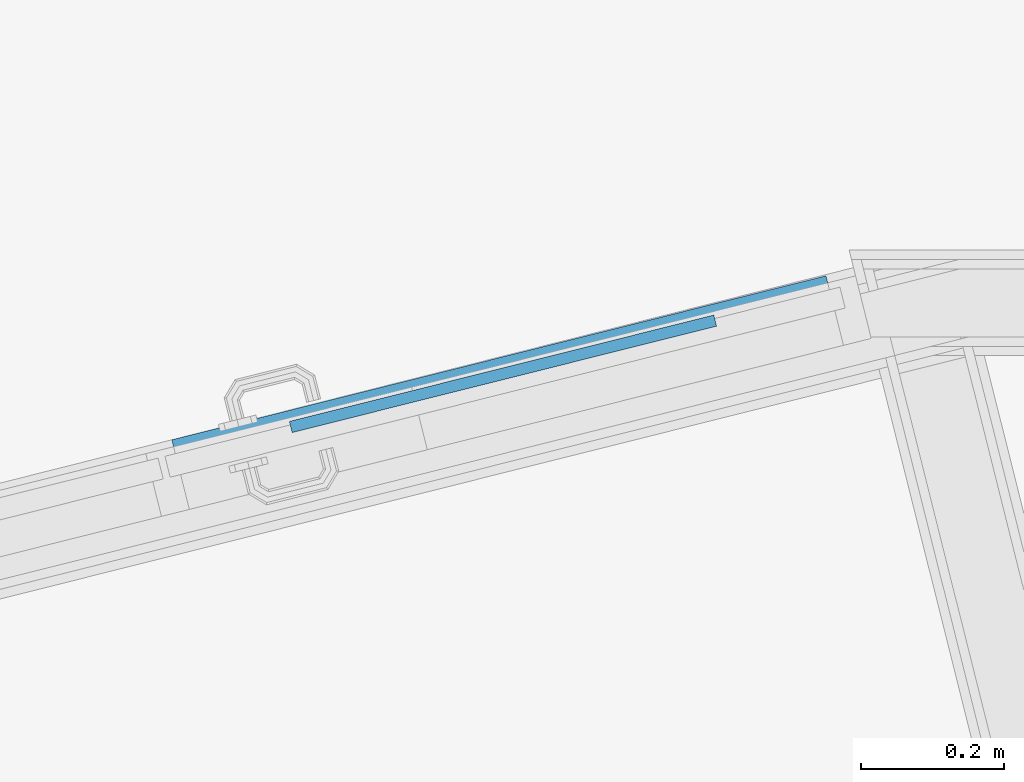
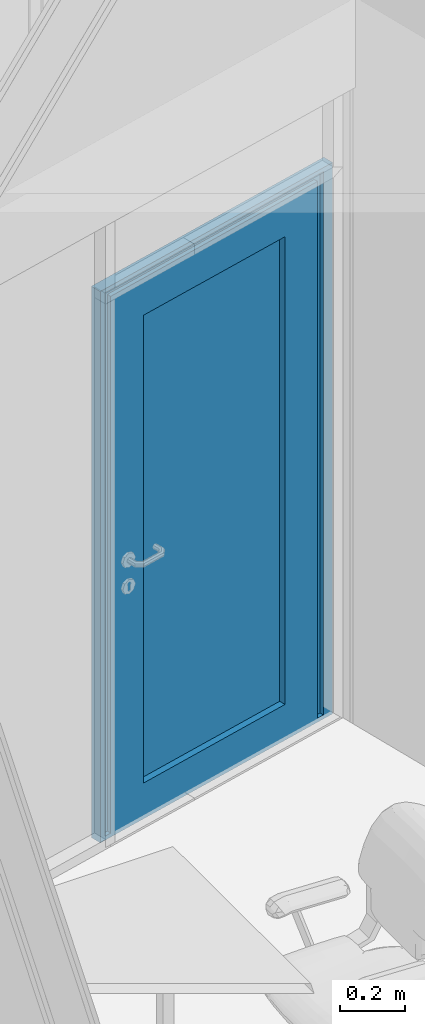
# One storey, part 74 of 153: 2 building element parts, 2 elements without a shape of their own.
"""IFC2X3 building model written with IfcOpenShell, lengths in millimetres."""

from ifc_helpers import new_model, entity, si_unit, converted_unit, derived_unit, money_unit, direction, frame, origin_with_axes, place, context, subcontext, project, spatial, faceted_brep, material, type_object, element, aggregate, save


model = new_model("IFC2X3")

# Units and contexts
model_context = context("Model", 3, precision=0.01, world=origin_with_axes(), true_north=direction((0.0, 1.0)))
body_context = subcontext(model_context, "Body", "Model", "MODEL_VIEW")
ifc_project = project(units=[si_unit("LENGTHUNIT", "METRE", prefix="MILLI"), si_unit("AREAUNIT", "SQUARE_METRE"), si_unit("VOLUMEUNIT", "CUBIC_METRE"), converted_unit("PLANEANGLEUNIT", "DEGREE", entity("IfcPlaneAngleMeasure", 0.0174532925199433), si_unit("PLANEANGLEUNIT", "RADIAN"), dimensions=[0, 0, 0, 0, 0, 0, 0]), money_unit("EUR"), converted_unit("TIMEUNIT", "Year", entity("IfcTimeMeasure", 31557600.0), si_unit("TIMEUNIT", "SECOND"), dimensions=[0, 0, 1, 0, 0, 0, 0]), si_unit("MASSUNIT", "GRAM", prefix="KILO"), si_unit("THERMODYNAMICTEMPERATUREUNIT", "DEGREE_CELSIUS"), si_unit("LUMINOUSINTENSITYUNIT", "LUMEN"), si_unit("ENERGYUNIT", "JOULE", prefix="MEGA"), derived_unit("THERMALCONDUCTANCEUNIT", [(si_unit("POWERUNIT", "WATT"), 1), (si_unit("LENGTHUNIT", "METRE"), -1), (si_unit("THERMODYNAMICTEMPERATUREUNIT", "KELVIN"), -1)]), derived_unit("SPECIFICHEATCAPACITYUNIT", [(si_unit("ENERGYUNIT", "JOULE"), 1), (si_unit("MASSUNIT", "GRAM", prefix="KILO"), -1), (si_unit("THERMODYNAMICTEMPERATUREUNIT", "KELVIN"), -1)]), derived_unit("MASSDENSITYUNIT", [(si_unit("MASSUNIT", "GRAM", prefix="KILO"), 1), (si_unit("VOLUMEUNIT", "CUBIC_METRE"), -1)])], contexts=[model_context])

# Site, building, storey
site_placement = place(None, frame((0.0, 0.0, 8650.0), z_axis=(0.0, 0.0, 1.0), x_axis=(1.0, 0.0, 0.0)))
site = spatial("IfcSite", under=ifc_project, at=site_placement, Name="43301:001:0844", CompositionType="ELEMENT")
building_placement = place(site_placement, origin_with_axes())
building = spatial("IfcBuilding", under=site, at=building_placement, Name="Kuressaare Ametikooli tuulikute mehaanikute õppekorpus", CompositionType="ELEMENT")
storey_placement = place(building_placement, frame((0.0, 0.0, 4100.0), z_axis=(0.0, 0.0, 1.0), x_axis=(1.0, 0.0, 0.0)))
storey = spatial("IfcBuildingStorey", under=building, at=storey_placement, Name="2.korrus", CompositionType="ELEMENT", Elevation=4100.0)

# Curtain wall, door, building element parts
curtain_wall_type = type_object("IfcCurtainWallType", Name="Curtain Wall Type", PredefinedType="NOTDEFINED")
curtain_wall_placement = place(storey_placement, frame((123471.3194861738, 21235.04693506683, 4.768376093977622e-05), z_axis=(0.0, 0.0, 1.0), x_axis=(1.0, 0.0, 0.0)))
curtain_wall = element("IfcCurtainWall", 1, at=curtain_wall_placement, inside=storey, type_object=curtain_wall_type, Name="PKF-2.3")
door_style = type_object("IfcDoorStyle", Name="613 x 2075 x 40", ConstructionType="NOTDEFINED", OperationType="SINGLE_SWING_LEFT", ParameterTakesPrecedence=False, Sizeable=False)
door_placement = place(curtain_wall_placement, frame((823.0175913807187, 206.2842072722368, 1039.999960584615), z_axis=(0.0, 0.0, 1.0), x_axis=(-0.9699953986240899, -0.2431232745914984, 0.0)))
door = element("IfcDoor", 2, at=door_placement, type_object=door_style, Name="PKU10,dB", OverallHeight=2050.0, OverallWidth=940.0)
aggregate(curtain_wall, [door])
ifc_material_1 = material(Name="Aluminium")
building_element_part_1_placement = place(door_placement, origin_with_axes())
building_element_part_1 = element("IfcBuildingElementPart", 3, at=building_element_part_1_placement, material=ifc_material_1, Name="Aluminium", context=body_context, shape_type="Brep", body=[
    faceted_brep([(408.9857273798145, -30.00000000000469, -1030.000022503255), (408.9857273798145, -30.00000000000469, 995.0000038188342), (408.9857273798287, -35.00000000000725, 995.0000038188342), (408.9857273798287, -35.00000000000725, -1030.000022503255), (363.985727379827, -30.00000000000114, -1030.000022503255), (363.985727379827, -30.00000000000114, 950.0000038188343), (363.985727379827, -35.00000000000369, 950.0000038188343), (363.985727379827, -35.00000000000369, -1030.000022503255)], [[[0, 1, 2, 3]], [[0, 4, 5, 1]], [[1, 5, 6, 2]], [[3, 2, 6, 7]], [[4, 0, 3, 7]], [[5, 4, 7, 6]]]),
    faceted_brep([(-481.0142053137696, -30.00000000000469, 995.0000038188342), (-436.0142053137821, -30.00000000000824, 950.0000038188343), (-436.0142053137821, -35.00000000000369, 950.0000038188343), (-481.014205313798, -35.00000000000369, 995.0000038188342), (408.9857273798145, -30.00000000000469, 995.0000038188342), (363.985727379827, -30.00000000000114, 950.0000038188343), (363.985727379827, -35.00000000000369, 950.0000038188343), (408.9857273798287, -35.00000000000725, 995.0000038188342)], [[[0, 1, 2, 3]], [[0, 4, 5, 1]], [[1, 5, 6, 2]], [[3, 2, 6, 7]], [[4, 0, 3, 7]], [[5, 4, 7, 6]]]),
    faceted_brep([(-481.0142053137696, -30.00000000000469, -1030.000022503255), (-436.0142053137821, -30.00000000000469, -1030.000022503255), (-436.0142053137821, -35.00000000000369, -1030.000022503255), (-481.014205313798, -35.00000000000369, -1030.000022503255), (-481.0142053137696, -30.00000000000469, 995.0000038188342), (-436.0142053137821, -30.00000000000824, 950.0000038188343), (-436.0142053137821, -35.00000000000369, 950.0000038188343), (-481.014205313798, -35.00000000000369, 995.0000038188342)], [[[0, 1, 2, 3]], [[0, 4, 5, 1]], [[1, 5, 6, 2]], [[3, 2, 6, 7]], [[4, 0, 3, 7]], [[5, 4, 7, 6]]]),
    faceted_brep([(433.9857273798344, 4.9999999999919, -1030.000022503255), (433.9857273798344, 4.9999999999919, 1020.000003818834), (433.9857273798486, -35.0000000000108, 1020.000003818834), (433.9857273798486, -35.0000000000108, -1030.000022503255), (408.9857273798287, 4.9999999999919, -1030.000022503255), (408.9857273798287, 4.9999999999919, 995.0000038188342), (408.9857273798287, -35.00000000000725, 995.0000038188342), (408.9857273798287, -35.00000000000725, -1030.000022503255)], [[[0, 1, 2, 3]], [[0, 4, 5, 1]], [[1, 5, 6, 2]], [[3, 2, 6, 7]], [[4, 0, 3, 7]], [[5, 4, 7, 6]]]),
    faceted_brep([(-506.0142053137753, 4.9999999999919, 1020.000003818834), (-481.0142053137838, 4.999999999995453, 995.0000038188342), (-481.014205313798, -35.00000000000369, 995.0000038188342), (-506.0142053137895, -35.00000000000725, 1020.000003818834), (433.9857273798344, 4.9999999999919, 1020.000003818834), (408.9857273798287, 4.9999999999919, 995.0000038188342), (408.9857273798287, -35.00000000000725, 995.0000038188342), (433.9857273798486, -35.0000000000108, 1020.000003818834)], [[[0, 1, 2, 3]], [[0, 4, 5, 1]], [[1, 5, 6, 2]], [[3, 2, 6, 7]], [[4, 0, 3, 7]], [[5, 4, 7, 6]]]),
    faceted_brep([(-506.0142053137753, 4.9999999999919, -1030.000022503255), (-481.0142053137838, 4.999999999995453, -1030.000022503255), (-481.014205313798, -35.00000000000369, -1030.000022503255), (-506.0142053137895, -35.00000000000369, -1030.000022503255), (-506.0142053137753, 4.9999999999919, 1020.000003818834), (-481.0142053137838, 4.999999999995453, 995.0000038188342), (-481.014205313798, -35.00000000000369, 995.0000038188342), (-506.0142053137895, -35.00000000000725, 1020.000003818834)], [[[0, 1, 2, 3]], [[0, 4, 5, 1]], [[1, 5, 6, 2]], [[3, 2, 6, 7]], [[4, 0, 3, 7]], [[5, 4, 7, 6]]]),
    faceted_brep([(408.9857273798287, 19.99999999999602, -1030.000022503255), (408.9857273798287, 19.99999999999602, 995.0000038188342), (408.9857273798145, -30.00000000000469, 995.0000038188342), (408.9857273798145, -30.00000000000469, -1030.000022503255), (388.9857273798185, 19.99999999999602, -1030.000022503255), (388.9857273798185, 19.99999999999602, 975.0000038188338), (388.9857273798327, -30.00000000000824, 975.0000038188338), (388.9857273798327, -30.00000000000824, -1030.000022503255)], [[[0, 1, 2, 3]], [[0, 4, 5, 1]], [[1, 5, 6, 2]], [[3, 2, 6, 7]], [[4, 0, 3, 7]], [[5, 4, 7, 6]]]),
    faceted_brep([(-481.0142053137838, 19.99999999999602, 995.0000038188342), (-461.0142053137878, 19.99999999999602, 975.0000038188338), (-461.0142053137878, -30.00000000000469, 975.0000038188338), (-481.0142053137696, -30.00000000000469, 995.0000038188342), (408.9857273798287, 19.99999999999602, 995.0000038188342), (388.9857273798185, 19.99999999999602, 975.0000038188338), (388.9857273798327, -30.00000000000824, 975.0000038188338), (408.9857273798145, -30.00000000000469, 995.0000038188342)], [[[0, 1, 2, 3]], [[0, 4, 5, 1]], [[1, 5, 6, 2]], [[3, 2, 6, 7]], [[4, 0, 3, 7]], [[5, 4, 7, 6]]]),
    faceted_brep([(-481.0142053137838, 19.99999999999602, -1030.000022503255), (-461.0142053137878, 19.99999999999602, -1030.000022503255), (-461.0142053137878, -30.00000000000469, -1030.000022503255), (-481.0142053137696, -30.00000000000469, -1030.000022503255), (-481.0142053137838, 19.99999999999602, 995.0000038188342), (-461.0142053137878, 19.99999999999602, 975.0000038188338), (-461.0142053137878, -30.00000000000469, 975.0000038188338), (-481.0142053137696, -30.00000000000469, 995.0000038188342)], [[[0, 1, 2, 3]], [[0, 4, 5, 1]], [[1, 5, 6, 2]], [[3, 2, 6, 7]], [[4, 0, 3, 7]], [[5, 4, 7, 6]]]),
    faceted_brep([(-546.0142103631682, 19.99999999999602, -1045.000008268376), (453.9857333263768, 19.99999999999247, -1045.000008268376), (453.9857333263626, -20.00000000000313, -1045.000008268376), (-546.0142103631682, -20.00000000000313, -1045.000008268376), (-506.0142053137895, 19.99999999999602, -1030.000022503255), (433.9857273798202, 19.99999999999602, -1030.000022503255), (433.9857273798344, -20.00000000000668, -1030.000022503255), (-506.0142053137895, -20.00000000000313, -1030.000022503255)], [[[0, 1, 2, 3]], [[0, 4, 5, 1]], [[1, 5, 6, 2]], [[3, 2, 6, 7]], [[4, 0, 3, 7]], [[5, 4, 7, 6]]]),
    faceted_brep([(453.9857333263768, 19.99999999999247, -1045.000008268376), (453.9857333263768, 19.99999999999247, 1035.000013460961), (453.9857333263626, -20.00000000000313, 1035.000013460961), (453.9857333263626, -20.00000000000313, -1045.000008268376), (433.9857273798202, 19.99999999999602, -1030.000022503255), (433.9857273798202, 19.99999999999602, 1020.000003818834), (433.9857273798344, -20.00000000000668, 1020.000003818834), (433.9857273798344, -20.00000000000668, -1030.000022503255)], [[[0, 1, 2, 3]], [[0, 4, 5, 1]], [[1, 5, 6, 2]], [[3, 2, 6, 7]], [[4, 0, 3, 7]], [[5, 4, 7, 6]]]),
    faceted_brep([(453.9857333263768, 19.99999999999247, 1035.000013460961), (-546.0142103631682, 19.99999999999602, 1035.000013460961), (-546.0142103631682, -20.00000000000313, 1035.000013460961), (453.9857333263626, -20.00000000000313, 1035.000013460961), (433.9857273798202, 19.99999999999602, 1020.000003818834), (-506.0142053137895, 19.99999999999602, 1020.000003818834), (-506.0142053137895, -20.00000000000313, 1020.000003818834), (433.9857273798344, -20.00000000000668, 1020.000003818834)], [[[0, 1, 2, 3]], [[0, 4, 5, 1]], [[1, 5, 6, 2]], [[3, 2, 6, 7]], [[4, 0, 3, 7]], [[5, 4, 7, 6]]]),
    faceted_brep([(-546.0142103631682, 19.99999999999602, 1035.000013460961), (-546.0142103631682, 19.99999999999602, -1045.000008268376), (-546.0142103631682, -20.00000000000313, -1045.000008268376), (-546.0142103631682, -20.00000000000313, 1035.000013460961), (-506.0142053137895, 19.99999999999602, 1020.000003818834), (-506.0142053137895, 19.99999999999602, -1030.000022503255), (-506.0142053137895, -20.00000000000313, -1030.000022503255), (-506.0142053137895, -20.00000000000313, 1020.000003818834)], [[[0, 1, 2, 3]], [[0, 4, 5, 1]], [[1, 5, 6, 2]], [[3, 2, 6, 7]], [[4, 0, 3, 7]], [[5, 4, 7, 6]]]),
    faceted_brep([(-341.0142053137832, -30.00000000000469, -910.0000225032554), (-341.0142053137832, 19.99999999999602, -910.0000225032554), (-341.0142053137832, 19.99999999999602, 855.0000038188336), (-341.0142053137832, -30.00000000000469, 855.0000038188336), (-461.0142053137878, -30.00000000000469, -1030.000022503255), (-461.0142053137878, 19.99999999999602, -1030.000022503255), (-461.0142053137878, 19.99999999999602, 975.0000038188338), (-461.0142053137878, -30.00000000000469, 975.0000038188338)], [[[0, 1, 2, 3]], [[4, 5, 1, 0]], [[1, 5, 6, 2]], [[3, 2, 6, 7]], [[0, 3, 7, 4]], [[7, 6, 5, 4]]]),
    faceted_brep([(388.9857273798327, -30.00000000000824, -1030.000022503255), (388.9857273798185, 19.99999999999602, -1030.000022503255), (388.9857273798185, 19.99999999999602, 975.0000038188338), (388.9857273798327, -30.00000000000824, 975.0000038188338), (268.9857273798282, -30.00000000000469, -910.0000225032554), (268.9857273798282, 19.99999999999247, -910.0000225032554), (268.9857273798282, 19.99999999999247, 855.0000038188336), (268.9857273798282, -30.00000000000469, 855.0000038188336)], [[[0, 1, 2, 3]], [[4, 5, 1, 0]], [[1, 5, 6, 2]], [[3, 2, 6, 7]], [[0, 3, 7, 4]], [[7, 6, 5, 4]]]),
    faceted_brep([(388.9857273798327, -30.00000000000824, -1030.000022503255), (388.9857273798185, 19.99999999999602, -1030.000022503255), (268.9857273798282, 19.99999999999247, -910.0000225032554), (268.9857273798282, -30.00000000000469, -910.0000225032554), (-461.0142053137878, -30.00000000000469, -1030.000022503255), (-461.0142053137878, 19.99999999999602, -1030.000022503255), (-341.0142053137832, 19.99999999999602, -910.0000225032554), (-341.0142053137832, -30.00000000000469, -910.0000225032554)], [[[0, 1, 2, 3]], [[4, 5, 1, 0]], [[1, 5, 6, 2]], [[3, 2, 6, 7]], [[0, 3, 7, 4]], [[7, 6, 5, 4]]]),
    faceted_brep([(-461.0142053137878, -30.00000000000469, 975.0000038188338), (-461.0142053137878, 19.99999999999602, 975.0000038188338), (-341.0142053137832, 19.99999999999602, 855.0000038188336), (-341.0142053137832, -30.00000000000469, 855.0000038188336), (388.9857273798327, -30.00000000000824, 975.0000038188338), (388.9857273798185, 19.99999999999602, 975.0000038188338), (268.9857273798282, 19.99999999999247, 855.0000038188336), (268.9857273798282, -30.00000000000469, 855.0000038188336)], [[[0, 1, 2, 3]], [[4, 5, 1, 0]], [[1, 5, 6, 2]], [[3, 2, 6, 7]], [[0, 3, 7, 4]], [[7, 6, 5, 4]]]),
])
ifc_material_2 = material(Name="Klaas")
building_element_part_2_placement = place(door_placement, origin_with_axes())
building_element_part_2 = element("IfcBuildingElementPart", 4, at=building_element_part_2_placement, material=ifc_material_2, Name="Klaas", context=body_context, shape_type="Brep", body=[
    faceted_brep([(-341.014205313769, -20.00000000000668, -910.0000225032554), (-341.0142053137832, -4.000000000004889, -910.0000225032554), (268.9857273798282, -4.000000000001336, -910.0000225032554), (268.9857273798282, -20.00000000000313, -910.0000225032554), (-341.014205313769, -20.00000000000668, 855.0000038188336), (-341.0142053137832, -4.000000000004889, 855.0000038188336), (268.9857273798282, -4.000000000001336, 855.0000038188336), (268.9857273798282, -20.00000000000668, 855.0000038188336)], [[[0, 1, 2, 3]], [[4, 5, 1, 0]], [[1, 5, 6, 2]], [[3, 2, 6, 7]], [[0, 3, 7, 4]], [[7, 6, 5, 4]]]),
])
aggregate(door, [building_element_part_1, building_element_part_2])

save(model, "model.ifc")
